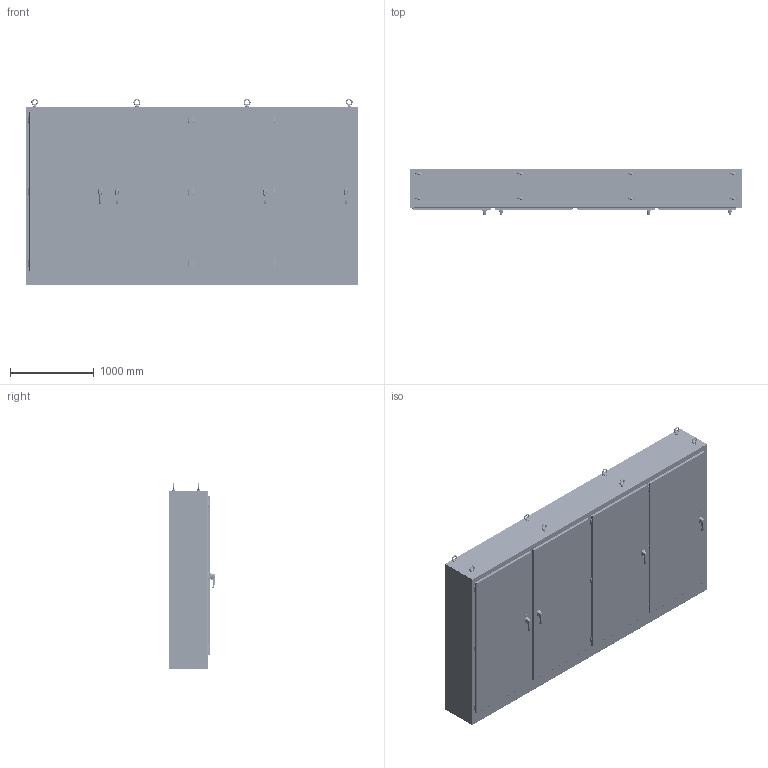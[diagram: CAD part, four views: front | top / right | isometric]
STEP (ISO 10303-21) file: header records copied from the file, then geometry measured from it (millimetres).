
FILE_DESCRIPTION(/* description */ ('Unknown'),/* implementation_level */ '2;1');
FILE_NAME(/* name */ '4UHD8415718N4SS',/* time_stamp */ '2018-12-10T09:35:16-05:00',/* author */ ('Unknown'),/* organization */ ('Unknown'),/* preprocessor_version */ 'ST-DEVELOPER v16.7',/* originating_system */ 'DEX',/* authorisation */ $);
FILE_SCHEMA (('AUTOMOTIVE_DESIGN {1 0 10303 214 3 1 1}'));
Products named in the file (144): 4UHD8415718N4SS; COM70830-9; STD26089; NTS16692; SCS87245; COM70878-4; COM70880-4; STD26258; STD26122; STD26202; HNG14568; HNG14568B; WAF87246; WAM254785; COM70900-6; COM70886; COM70882; COM70900-2; COM49853; COM70883-1; COM70884-3; COM70897-9; COM70889; COM70885-3; COM70888; AKT95002; WAF25059; NTS166105; COM70898-1; COM70887; COM70879-4; HNG14568MH; COM70875-2; COM70902; HAN86075; HAN86075_SCREW; HAN86075_NUT; HAN_NUT; COM70906-1; COM70872-2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
Assembly tree (441 placements, depth 4):
  4UHD8415718N4SS
    COM70830-9  x3
    STD26089  x16
    NTS16692  x8
    SCS87245  x8
    COM70878-4
      COM70880-4
      STD26258
      STD26122  x2
      STD26202  x4
      HNG14568  x3
      HNG14568B  x3
    WAF87246  x8
    WAM254785  x8
    COM70900-6  x4
    COM70886
    COM70882  x2
    COM70900-2
    COM49853  x2
    COM70883-1  x2
    COM70884-3
    COM70897-9  x2
    COM70889
    COM70885-3
    COM70888
    AKT95002  x16
      WAF25059
      NTS166105
    COM70898-1
    COM70887
    COM70879-4  x2
      COM70880-4
      STD26258
      STD26122
      HNG14568
      HNG14568B
    HNG14568MH  x9
    COM70875-2
    COM70902  x4
    HAN86075
      HAN86075
      HAN86075_SCREW
      HAN86075_NUT
      HAN_NUT
    COM70906-1
    COM70872-2
      STD26090  x2
      COM70874-2
      COM70873-2
      COM70904  x2
    COM70870-2
      STD26090  x2
      COM70874-2
      COM70871-2
      COM70904  x2
      HNG14568MH  x3
    COM70876-3
      COM70877-3
      STD26258
      STD26122  x2
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Bounding box: 3975.1 x 545.21 x 2230.08 mm (x, y, z)
Volume: 91813611.9 mm3; surface area: 71699022.1 mm2
Topology: 458 solids, 462 shells, 13465 faces, 33478 edges, 22117 vertices
Faces by surface type: plane 9777, cylinder 1929, bspline 1226, cone 276, torus 181, sphere 76
Full cylindrical faces by diameter (mm): 3.68 x4, 3.967 x6, 4.249 x4, 4.394 x4, 4.75 x8, 4.775 x2, 4.801 x2, 4.826 x4, 4.928 x1, 4.976 x31, 4.978 x6, 5.105 x12, 5.461 x6, 5.537 x12, 5.563 x3, 5.893 x4, 5.918 x4, 6.248 x25, 6.325 x2, 6.35 x70, 6.477 x5, 6.528 x16, 6.731 x1, 6.756 x13, 6.985 x4, 7.112 x16, 7.137 x22, 7.163 x3, 7.366 x2, 7.442 x12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
Entity records: 261334 total; most frequent: CARTESIAN_POINT 108914, ORIENTED_EDGE 33222, DIRECTION 23984, EDGE_CURVE 16611, VERTEX_POINT 11157, AXIS2_PLACEMENT_3D 8025, EDGE_LOOP 7972, FACE_BOUND 7972
